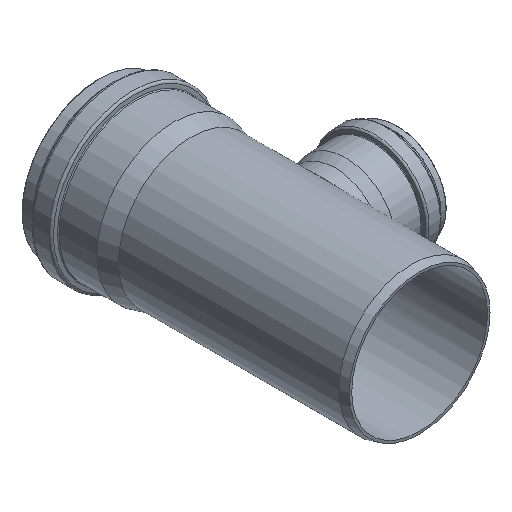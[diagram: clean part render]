
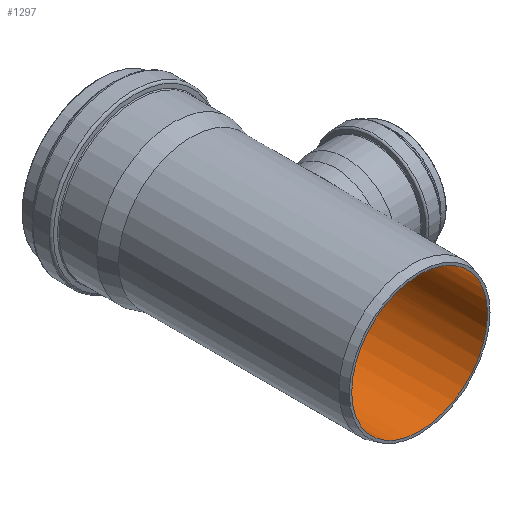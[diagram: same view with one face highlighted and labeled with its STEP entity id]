
A CAD part, isometric view. The second image highlights one B-rep face of the part: STEP entity #1297.
In plain terms, the highlighted cylindrical face has radius 117.15 mm (diameter 234.3 mm), a full revolution.
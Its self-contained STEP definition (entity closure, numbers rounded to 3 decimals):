
#73=LINE('',#3022,#113);
#74=LINE('',#3024,#114);
#113=VECTOR('',#1835,117.15);
#114=VECTOR('',#1836,117.15);
#231=CIRCLE('',#1471,117.15);
#232=CIRCLE('',#1472,117.15);
#317=CYLINDRICAL_SURFACE('',#1470,117.15);
#364=FACE_OUTER_BOUND('',#441,.T.);
#441=EDGE_LOOP('',(#1061,#1062,#1063,#1064,#1065,#1066,#1067,#1068,#1069));
#493=B_SPLINE_CURVE_WITH_KNOTS('',3,(#2776,#2777,#2778,#2779,#2780,#2781,
#2782,#2783,#2784,#2785,#2786,#2787,#2788,#2789,#2790,#2791,#2792,#2793),
 .UNSPECIFIED.,.F.,.F.,(4,2,2,2,2,2,2,2,4),(35.209,36.665,
38.12,39.576,41.032,42.485,43.938,
45.391,46.845),.UNSPECIFIED.);
#494=B_SPLINE_CURVE_WITH_KNOTS('',3,(#2795,#2796,#2797,#2798,#2799,#2800,
#2801,#2802,#2803,#2804,#2805,#2806,#2807,#2808,#2809,#2810,#2811,#2812),
 .UNSPECIFIED.,.F.,.F.,(4,2,2,2,2,2,2,2,4),(0.,1.483,2.965,
4.448,5.931,7.395,8.859,10.323,
11.787),.UNSPECIFIED.);
#495=B_SPLINE_CURVE_WITH_KNOTS('',3,(#2813,#2814,#2815,#2816,#2817,#2818,
#2819,#2820,#2821,#2822,#2823,#2824,#2825,#2826,#2827,#2828,#2829,#2830,
#2831,#2832,#2833,#2834,#2835,#2836,#2837,#2838,#2839,#2840,#2841,#2842,
#2843,#2844,#2845,#2846),.UNSPECIFIED.,.F.,.F.,(4,2,2,2,2,2,2,2,2,2,2,2,
2,2,2,2,4),(11.787,13.251,14.715,16.179,
17.643,19.125,20.608,22.091,23.573,
25.026,26.48,27.933,29.386,30.842,
32.298,33.753,35.209),.UNSPECIFIED.);
#512=VERTEX_POINT('',#2773);
#513=VERTEX_POINT('',#2775);
#514=VERTEX_POINT('',#2794);
#571=VERTEX_POINT('',#3020);
#572=VERTEX_POINT('',#3023);
#657=EDGE_CURVE('',#512,#513,#493,.T.);
#658=EDGE_CURVE('',#513,#514,#494,.T.);
#659=EDGE_CURVE('',#514,#512,#495,.T.);
#745=EDGE_CURVE('',#571,#571,#231,.T.);
#746=EDGE_CURVE('',#571,#514,#73,.T.);
#747=EDGE_CURVE('',#512,#572,#74,.T.);
#748=EDGE_CURVE('',#572,#572,#232,.T.);
#1061=ORIENTED_EDGE('',*,*,#745,.T.);
#1062=ORIENTED_EDGE('',*,*,#746,.T.);
#1063=ORIENTED_EDGE('',*,*,#658,.F.);
#1064=ORIENTED_EDGE('',*,*,#657,.F.);
#1065=ORIENTED_EDGE('',*,*,#747,.T.);
#1066=ORIENTED_EDGE('',*,*,#748,.F.);
#1067=ORIENTED_EDGE('',*,*,#747,.F.);
#1068=ORIENTED_EDGE('',*,*,#659,.F.);
#1069=ORIENTED_EDGE('',*,*,#746,.F.);
#1297=ADVANCED_FACE('',(#364),#317,.F.);
#1470=AXIS2_PLACEMENT_3D('',#3019,#1831,#1832);
#1471=AXIS2_PLACEMENT_3D('',#3021,#1833,#1834);
#1472=AXIS2_PLACEMENT_3D('',#3025,#1837,#1838);
#1831=DIRECTION('center_axis',(0.,1.,0.));
#1832=DIRECTION('ref_axis',(-1.,0.,0.));
#1833=DIRECTION('center_axis',(0.,1.,0.));
#1834=DIRECTION('ref_axis',(1.,0.,0.));
#1835=DIRECTION('',(0.,-1.,0.));
#1836=DIRECTION('',(0.,-1.,0.));
#1837=DIRECTION('center_axis',(0.,1.,0.));
#1838=DIRECTION('ref_axis',(1.,0.,0.));
#2773=CARTESIAN_POINT('',(117.15,197.144,0.));
#2775=CARTESIAN_POINT('',(90.078,270.933,74.9));
#2776=CARTESIAN_POINT('Ctrl Pts',(117.15,197.144,0.));
#2777=CARTESIAN_POINT('Ctrl Pts',(117.15,197.144,4.852));
#2778=CARTESIAN_POINT('Ctrl Pts',(116.842,197.61,9.831));
#2779=CARTESIAN_POINT('Ctrl Pts',(115.596,199.529,19.655));
#2780=CARTESIAN_POINT('Ctrl Pts',(114.658,200.982,24.5));
#2781=CARTESIAN_POINT('Ctrl Pts',(112.292,204.773,33.723));
#2782=CARTESIAN_POINT('Ctrl Pts',(110.862,207.114,38.11));
#2783=CARTESIAN_POINT('Ctrl Pts',(107.751,212.476,46.179));
#2784=CARTESIAN_POINT('Ctrl Pts',(106.072,215.497,49.862));
#2785=CARTESIAN_POINT('Ctrl Pts',(102.768,221.892,56.358));
#2786=CARTESIAN_POINT('Ctrl Pts',(101.017,225.501,59.412));
#2787=CARTESIAN_POINT('Ctrl Pts',(97.632,233.396,64.825));
#2788=CARTESIAN_POINT('Ctrl Pts',(96.,237.681,67.184));
#2789=CARTESIAN_POINT('Ctrl Pts',(93.206,246.71,71.009));
#2790=CARTESIAN_POINT('Ctrl Pts',(92.047,251.464,72.478));
#2791=CARTESIAN_POINT('Ctrl Pts',(90.481,261.153,74.424));
#2792=CARTESIAN_POINT('Ctrl Pts',(90.078,266.089,74.9));
#2793=CARTESIAN_POINT('Ctrl Pts',(90.078,270.933,74.9));
#2794=CARTESIAN_POINT('',(117.15,347.086,0.));
#2795=CARTESIAN_POINT('Ctrl Pts',(90.078,270.933,74.9));
#2796=CARTESIAN_POINT('Ctrl Pts',(90.078,275.875,74.9));
#2797=CARTESIAN_POINT('Ctrl Pts',(90.496,280.906,74.405));
#2798=CARTESIAN_POINT('Ctrl Pts',(92.092,290.797,72.42));
#2799=CARTESIAN_POINT('Ctrl Pts',(93.266,295.658,70.931));
#2800=CARTESIAN_POINT('Ctrl Pts',(96.076,304.923,67.076));
#2801=CARTESIAN_POINT('Ctrl Pts',(97.711,309.335,64.706));
#2802=CARTESIAN_POINT('Ctrl Pts',(101.096,317.496,59.278));
#2803=CARTESIAN_POINT('Ctrl Pts',(102.844,321.244,56.218));
#2804=CARTESIAN_POINT('Ctrl Pts',(106.124,327.865,49.747));
#2805=CARTESIAN_POINT('Ctrl Pts',(107.784,330.992,46.1));
#2806=CARTESIAN_POINT('Ctrl Pts',(110.866,336.573,38.094));
#2807=CARTESIAN_POINT('Ctrl Pts',(112.288,339.025,33.734));
#2808=CARTESIAN_POINT('Ctrl Pts',(114.648,343.013,24.546));
#2809=CARTESIAN_POINT('Ctrl Pts',(115.587,344.55,19.707));
#2810=CARTESIAN_POINT('Ctrl Pts',(116.838,346.588,9.875));
#2811=CARTESIAN_POINT('Ctrl Pts',(117.15,347.086,4.88));
#2812=CARTESIAN_POINT('Ctrl Pts',(117.15,347.086,0.));
#2813=CARTESIAN_POINT('Ctrl Pts',(117.15,347.086,0.));
#2814=CARTESIAN_POINT('Ctrl Pts',(117.15,347.086,-4.88));
#2815=CARTESIAN_POINT('Ctrl Pts',(116.838,346.588,-9.875));
#2816=CARTESIAN_POINT('Ctrl Pts',(115.587,344.55,-19.707));
#2817=CARTESIAN_POINT('Ctrl Pts',(114.648,343.013,-24.546));
#2818=CARTESIAN_POINT('Ctrl Pts',(112.288,339.025,-33.734));
#2819=CARTESIAN_POINT('Ctrl Pts',(110.866,336.573,-38.094));
#2820=CARTESIAN_POINT('Ctrl Pts',(107.784,330.992,-46.1));
#2821=CARTESIAN_POINT('Ctrl Pts',(106.124,327.865,-49.747));
#2822=CARTESIAN_POINT('Ctrl Pts',(102.844,321.244,-56.218));
#2823=CARTESIAN_POINT('Ctrl Pts',(101.096,317.496,-59.278));
#2824=CARTESIAN_POINT('Ctrl Pts',(97.711,309.335,-64.706));
#2825=CARTESIAN_POINT('Ctrl Pts',(96.076,304.923,-67.076));
#2826=CARTESIAN_POINT('Ctrl Pts',(93.266,295.658,-70.931));
#2827=CARTESIAN_POINT('Ctrl Pts',(92.092,290.797,-72.42));
#2828=CARTESIAN_POINT('Ctrl Pts',(90.496,280.906,-74.405));
#2829=CARTESIAN_POINT('Ctrl Pts',(90.078,275.875,-74.9));
#2830=CARTESIAN_POINT('Ctrl Pts',(90.078,266.089,-74.9));
#2831=CARTESIAN_POINT('Ctrl Pts',(90.481,261.153,-74.424));
#2832=CARTESIAN_POINT('Ctrl Pts',(92.047,251.464,-72.478));
#2833=CARTESIAN_POINT('Ctrl Pts',(93.206,246.71,-71.009));
#2834=CARTESIAN_POINT('Ctrl Pts',(96.,237.681,-67.184));
#2835=CARTESIAN_POINT('Ctrl Pts',(97.632,233.396,-64.825));
#2836=CARTESIAN_POINT('Ctrl Pts',(101.017,225.501,-59.412));
#2837=CARTESIAN_POINT('Ctrl Pts',(102.768,221.892,-56.358));
#2838=CARTESIAN_POINT('Ctrl Pts',(106.072,215.497,-49.862));
#2839=CARTESIAN_POINT('Ctrl Pts',(107.751,212.476,-46.179));
#2840=CARTESIAN_POINT('Ctrl Pts',(110.862,207.114,-38.11));
#2841=CARTESIAN_POINT('Ctrl Pts',(112.292,204.773,-33.723));
#2842=CARTESIAN_POINT('Ctrl Pts',(114.658,200.982,-24.5));
#2843=CARTESIAN_POINT('Ctrl Pts',(115.596,199.529,-19.655));
#2844=CARTESIAN_POINT('Ctrl Pts',(116.842,197.61,-9.831));
#2845=CARTESIAN_POINT('Ctrl Pts',(117.15,197.144,-4.852));
#2846=CARTESIAN_POINT('Ctrl Pts',(117.15,197.144,0.));
#3019=CARTESIAN_POINT('Origin',(0.,197.766,
0.));
#3020=CARTESIAN_POINT('',(117.15,395.531,0.));
#3021=CARTESIAN_POINT('Origin',(0.,395.531,
0.));
#3022=CARTESIAN_POINT('',(117.15,197.766,0.));
#3023=CARTESIAN_POINT('',(117.15,0.,0.));
#3024=CARTESIAN_POINT('',(117.15,197.766,0.));
#3025=CARTESIAN_POINT('Origin',(0.,0.,
0.));
